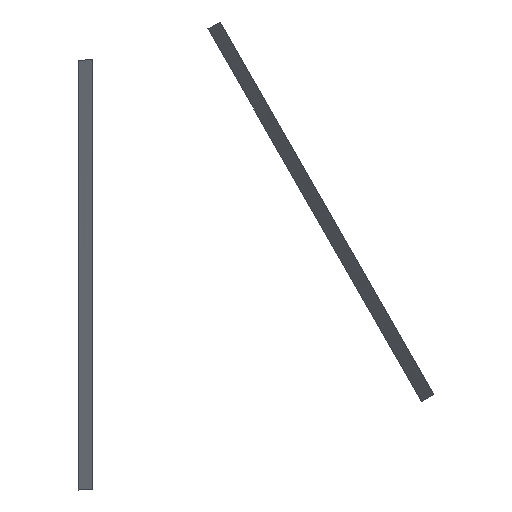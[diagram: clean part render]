
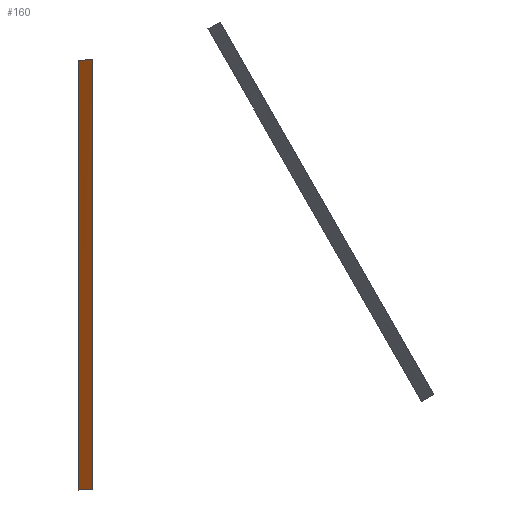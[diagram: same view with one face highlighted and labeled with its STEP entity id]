
A CAD part, top view. The second image highlights one B-rep face of the part: STEP entity #160.
In plain terms, the highlighted free-form (B-spline) face has degree [5, 5] with [6, 9] control points.
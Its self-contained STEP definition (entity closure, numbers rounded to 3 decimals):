
#54=CARTESIAN_POINT('Control Point',(2.499,-49.942,279.888)) ;
#55=CARTESIAN_POINT('Control Point',(2.499,-57.357,252.249)) ;
#56=CARTESIAN_POINT('Control Point',(2.5,-64.769,224.607)) ;
#57=CARTESIAN_POINT('Control Point',(2.5,-71.889,198.053)) ;
#58=CARTESIAN_POINT('Control Point',(2.5,-86.887,142.108)) ;
#59=CARTESIAN_POINT('Control Point',(2.5,-102.019,85.652)) ;
#60=CARTESIAN_POINT('Control Point',(2.5,-109.626,57.272)) ;
#61=CARTESIAN_POINT('Control Point',(2.5,-117.3,28.636)) ;
#62=CARTESIAN_POINT('Control Point',(2.5,-124.975,0.)) ;
#63=CARTESIAN_POINT('Control Point',(1.999,-49.953,279.891)) ;
#64=CARTESIAN_POINT('Control Point',(2.,-57.359,252.281)) ;
#65=CARTESIAN_POINT('Control Point',(2.,-64.763,224.667)) ;
#66=CARTESIAN_POINT('Control Point',(2.,-71.932,197.925)) ;
#67=CARTESIAN_POINT('Control Point',(2.,-86.93,141.973)) ;
#68=CARTESIAN_POINT('Control Point',(2.,-102.036,85.612)) ;
#69=CARTESIAN_POINT('Control Point',(2.,-109.648,57.211)) ;
#70=CARTESIAN_POINT('Control Point',(2.,-117.314,28.606)) ;
#71=CARTESIAN_POINT('Control Point',(2.,-124.98,0.)) ;
#72=CARTESIAN_POINT('Control Point',(1.5,-49.965,279.894)) ;
#73=CARTESIAN_POINT('Control Point',(1.5,-57.361,252.312)) ;
#74=CARTESIAN_POINT('Control Point',(1.5,-64.756,224.728)) ;
#75=CARTESIAN_POINT('Control Point',(1.5,-71.975,197.797)) ;
#76=CARTESIAN_POINT('Control Point',(1.5,-86.973,141.838)) ;
#77=CARTESIAN_POINT('Control Point',(1.5,-102.053,85.572)) ;
#78=CARTESIAN_POINT('Control Point',(1.5,-109.67,57.151)) ;
#79=CARTESIAN_POINT('Control Point',(1.5,-117.327,28.575)) ;
#80=CARTESIAN_POINT('Control Point',(1.5,-124.985,0.)) ;
#81=CARTESIAN_POINT('Control Point',(1.,-49.977,279.898)) ;
#82=CARTESIAN_POINT('Control Point',(1.,-57.363,252.344)) ;
#83=CARTESIAN_POINT('Control Point',(1.,-64.749,224.789)) ;
#84=CARTESIAN_POINT('Control Point',(1.,-72.018,197.669)) ;
#85=CARTESIAN_POINT('Control Point',(1.,-87.017,141.703)) ;
#86=CARTESIAN_POINT('Control Point',(1.,-102.07,85.532)) ;
#87=CARTESIAN_POINT('Control Point',(1.,-109.692,57.09)) ;
#88=CARTESIAN_POINT('Control Point',(1.,-117.341,28.545)) ;
#89=CARTESIAN_POINT('Control Point',(1.,-124.99,0.)) ;
#90=CARTESIAN_POINT('Control Point',(0.5,-49.988,279.901)) ;
#91=CARTESIAN_POINT('Control Point',(0.5,-57.366,252.375)) ;
#92=CARTESIAN_POINT('Control Point',(0.5,-64.742,224.849)) ;
#93=CARTESIAN_POINT('Control Point',(0.5,-72.06,197.541)) ;
#94=CARTESIAN_POINT('Control Point',(0.5,-87.06,141.568)) ;
#95=CARTESIAN_POINT('Control Point',(0.5,-102.086,85.492)) ;
#96=CARTESIAN_POINT('Control Point',(0.5,-109.714,57.029)) ;
#97=CARTESIAN_POINT('Control Point',(0.5,-117.354,28.514)) ;
#98=CARTESIAN_POINT('Control Point',(0.5,-124.995,0.)) ;
#99=CARTESIAN_POINT('Control Point',(0.,-50.,279.904)) ;
#100=CARTESIAN_POINT('Control Point',(0.,-57.368,252.407)) ;
#101=CARTESIAN_POINT('Control Point',(0.,-64.735,224.91)) ;
#102=CARTESIAN_POINT('Control Point',(0.,-72.103,197.413)) ;
#103=CARTESIAN_POINT('Control Point',(0.,-87.103,141.433)) ;
#104=CARTESIAN_POINT('Control Point',(0.,-102.103,85.452)) ;
#105=CARTESIAN_POINT('Control Point',(0.,-109.735,56.968)) ;
#106=CARTESIAN_POINT('Control Point',(0.,-117.368,28.484)) ;
#107=CARTESIAN_POINT('Control Point',(0.,-125.,0.)) ;
#109=CARTESIAN_POINT('Control Point',(2.499,-49.942,279.888)) ;
#110=CARTESIAN_POINT('Control Point',(1.999,-49.953,279.891)) ;
#111=CARTESIAN_POINT('Control Point',(1.5,-49.965,279.894)) ;
#112=CARTESIAN_POINT('Control Point',(1.,-49.977,279.898)) ;
#113=CARTESIAN_POINT('Control Point',(0.5,-49.988,279.901)) ;
#114=CARTESIAN_POINT('Control Point',(0.,-50.,279.904)) ;
#115=CARTESIAN_POINT('Vertex',(2.499,-49.942,279.888)) ;
#117=CARTESIAN_POINT('Vertex',(0.,-50.,279.904)) ;
#121=CARTESIAN_POINT('Control Point',(2.499,-49.942,279.888)) ;
#122=CARTESIAN_POINT('Control Point',(2.499,-57.357,252.249)) ;
#123=CARTESIAN_POINT('Control Point',(2.5,-64.769,224.607)) ;
#124=CARTESIAN_POINT('Control Point',(2.5,-71.889,198.053)) ;
#125=CARTESIAN_POINT('Control Point',(2.5,-86.887,142.108)) ;
#126=CARTESIAN_POINT('Control Point',(2.5,-102.019,85.652)) ;
#127=CARTESIAN_POINT('Control Point',(2.5,-109.626,57.272)) ;
#128=CARTESIAN_POINT('Control Point',(2.5,-117.3,28.636)) ;
#129=CARTESIAN_POINT('Control Point',(2.5,-124.975,0.)) ;
#130=CARTESIAN_POINT('Vertex',(2.5,-124.975,0.)) ;
#134=CARTESIAN_POINT('Control Point',(2.5,-124.975,0.)) ;
#135=CARTESIAN_POINT('Control Point',(2.,-124.98,0.)) ;
#136=CARTESIAN_POINT('Control Point',(1.5,-124.985,0.)) ;
#137=CARTESIAN_POINT('Control Point',(1.,-124.99,0.)) ;
#138=CARTESIAN_POINT('Control Point',(0.5,-124.995,0.)) ;
#139=CARTESIAN_POINT('Control Point',(0.,-125.,0.)) ;
#140=CARTESIAN_POINT('Vertex',(0.,-125.,0.)) ;
#144=CARTESIAN_POINT('Control Point',(0.,-50.,279.904)) ;
#145=CARTESIAN_POINT('Control Point',(0.,-57.368,252.407)) ;
#146=CARTESIAN_POINT('Control Point',(0.,-64.735,224.91)) ;
#147=CARTESIAN_POINT('Control Point',(0.,-72.103,197.413)) ;
#148=CARTESIAN_POINT('Control Point',(0.,-87.103,141.433)) ;
#149=CARTESIAN_POINT('Control Point',(0.,-102.103,85.452)) ;
#150=CARTESIAN_POINT('Control Point',(0.,-109.735,56.968)) ;
#151=CARTESIAN_POINT('Control Point',(0.,-117.368,28.484)) ;
#152=CARTESIAN_POINT('Control Point',(0.,-125.,0.)) ;
#155=ORIENTED_EDGE('',*,*,#119,.F.) ;
#156=ORIENTED_EDGE('',*,*,#132,.T.) ;
#157=ORIENTED_EDGE('',*,*,#142,.T.) ;
#158=ORIENTED_EDGE('',*,*,#153,.F.) ;
#160=ADVANCED_FACE('Multi-sections Surface.13',(#159),#53,.F.) ;
#108=B_SPLINE_CURVE_WITH_KNOTS('',5,(#109,#110,#111,#112,#113,#114),.UNSPECIFIED.,.F.,.U.,(6,6),(0.,2.527),.UNSPECIFIED.) ;
#120=B_SPLINE_CURVE_WITH_KNOTS('',5,(#121,#122,#123,#124,#125,#126,#127,#128,#129),.UNSPECIFIED.,.F.,.U.,(6,3,6),(0.,142.332,289.775),.UNSPECIFIED.) ;
#133=B_SPLINE_CURVE_WITH_KNOTS('',5,(#134,#135,#136,#137,#138,#139),.UNSPECIFIED.,.F.,.U.,(6,6),(0.,2.527),.UNSPECIFIED.) ;
#143=B_SPLINE_CURVE_WITH_KNOTS('',5,(#144,#145,#146,#147,#148,#149,#150,#151,#152),.UNSPECIFIED.,.F.,.U.,(6,3,6),(0.,142.332,289.775),.UNSPECIFIED.) ;
#53=B_SPLINE_SURFACE_WITH_KNOTS('',5,5,((#54,#55,#56,#57,#58,#59,#60,#61,#62),(#63,#64,#65,#66,#67,#68,#69,#70,#71),(#72,#73,#74,#75,#76,#77,#78,#79,#80),(#81,#82,#83,#84,#85,#86,#87,#88,#89),(#90,#91,#92,#93,#94,#95,#96,#97,#98),(#99,#100,#101,#102,#103,#104,#105,#106,#107)),.UNSPECIFIED.,.F.,.F.,.U.,(6,6),(6,3,6),(0.,2.527),(0.,142.332,289.775),.UNSPECIFIED.) ;
#119=EDGE_CURVE('',#116,#118,#108,.T.) ;
#132=EDGE_CURVE('',#116,#131,#120,.T.) ;
#142=EDGE_CURVE('',#131,#141,#133,.T.) ;
#153=EDGE_CURVE('',#118,#141,#143,.T.) ;
#154=EDGE_LOOP('',(#155,#156,#157,#158)) ;
#159=FACE_OUTER_BOUND('',#154,.T.) ;
#116=VERTEX_POINT('',#115) ;
#118=VERTEX_POINT('',#117) ;
#131=VERTEX_POINT('',#130) ;
#141=VERTEX_POINT('',#140) ;
